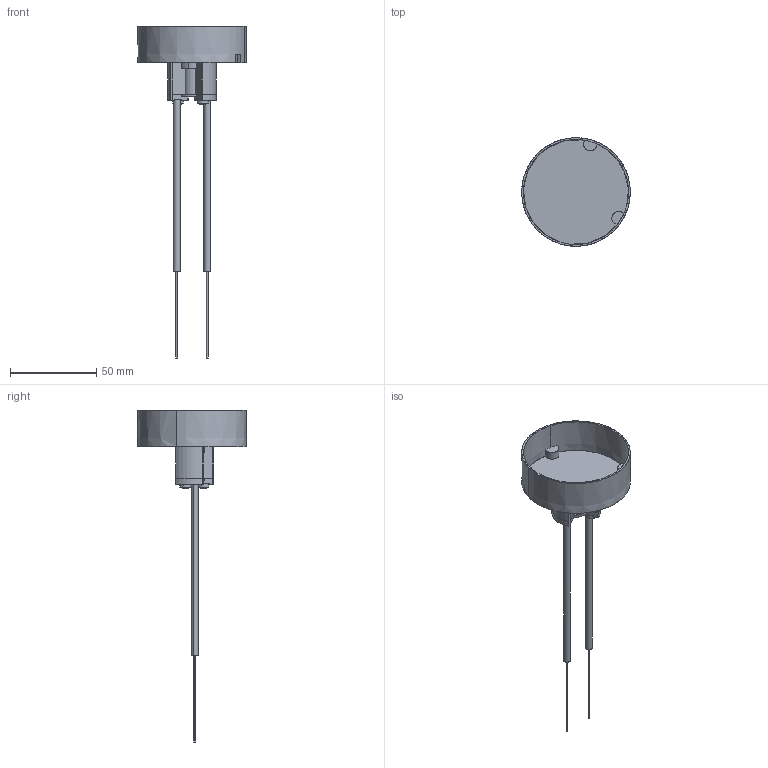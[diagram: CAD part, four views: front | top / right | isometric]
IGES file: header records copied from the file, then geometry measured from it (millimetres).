
Start section: SolidWorks IGES file using analytic representation for surfaces
Global section: file name: C:\Users\Toshiba\Desktop\FR-30PRO.IGS; native system: SolidWorks 2014; preprocessor: SolidWorks 2014; author: Toshiba; date: 160621.083717; units: metre
Bounding box: 63 x 63 x 192.7 mm (x, y, z)
Surface area: 21680.4 mm2 (no closed solid volume)
Topology: 0 solids, 0 shells, 161 faces, 2186 edges, 2186 vertices
Faces by surface type: bspline 85, revolution 76
